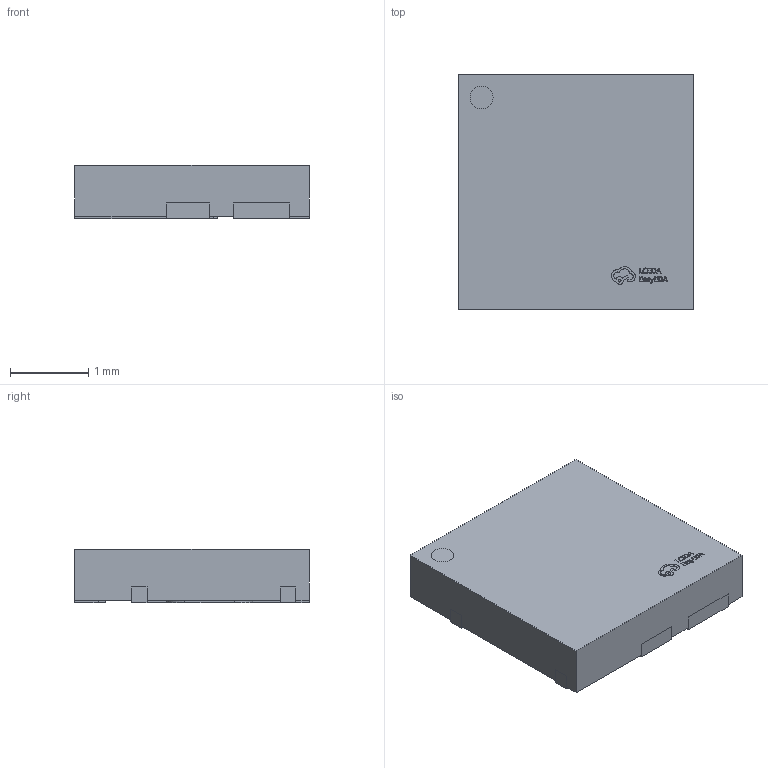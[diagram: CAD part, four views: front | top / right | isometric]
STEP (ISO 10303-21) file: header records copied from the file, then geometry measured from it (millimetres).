
FILE_DESCRIPTION (( 'STEP AP214' ), '1' );
FILE_NAME ('QFN-10_L3.0-W3.0-P0.45-TL_SILERGY.STEP', '2023-07-22T16:21:06', ( '微软用户' ), ( '微软中国' ), 'SwSTEP 2.0', 'SolidWorks 2020', '' );
FILE_SCHEMA (( 'AUTOMOTIVE_DESIGN' ));
Length unit declared in the file: millimetre
Products named in the file (1): QFN-10_L3.0-W3.0-P0.45-TL_SILERGY
Bounding box: 3 x 3 x 0.68 mm (x, y, z)
Volume: 6 mm3; surface area: 43.6 mm2
Topology: 11 solids, 11 shells, 388 faces, 1035 edges, 690 vertices
Faces by surface type: plane 248, bspline 98, cylinder 42
Entity records: 16181 total; most frequent: CARTESIAN_POINT 3420, ORIENTED_EDGE 2070, DIRECTION 1501, EDGE_CURVE 1035, LINE 751, VECTOR 751, VERTEX_POINT 690, EDGE_LOOP 409
